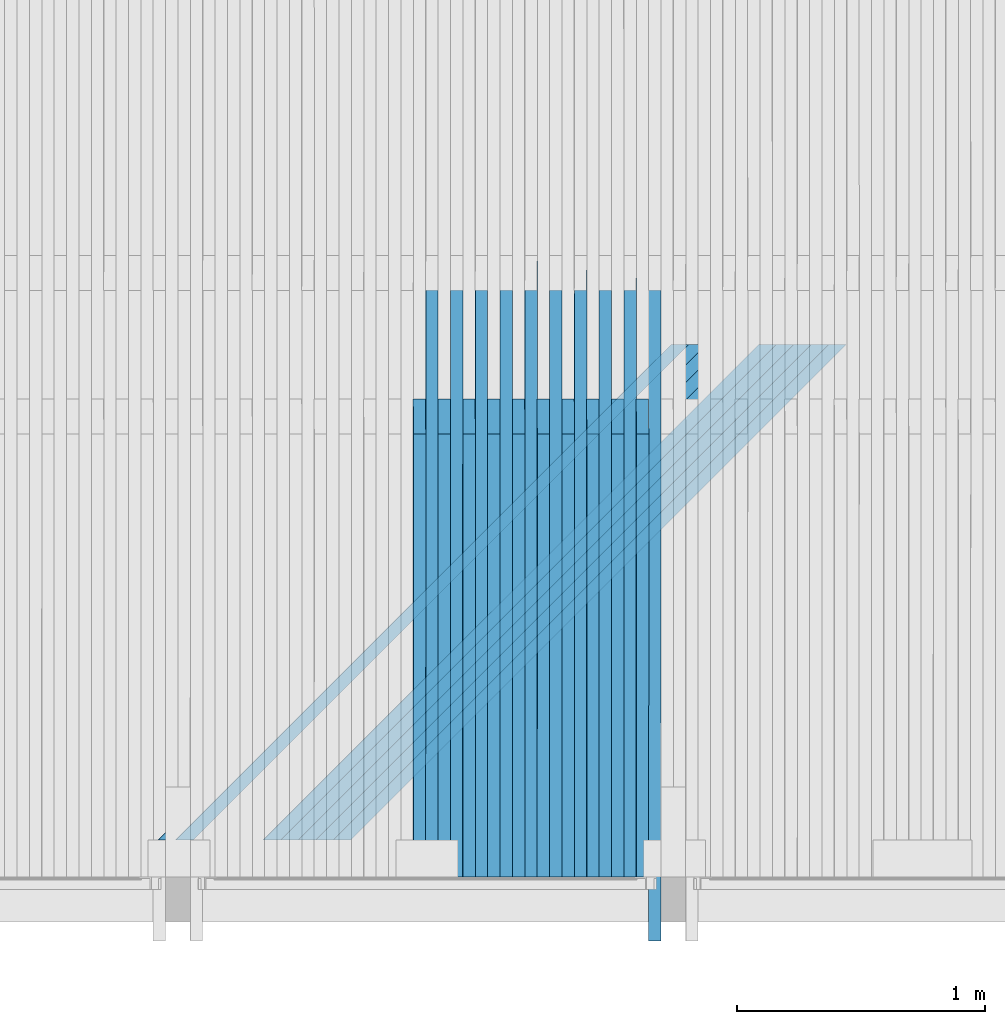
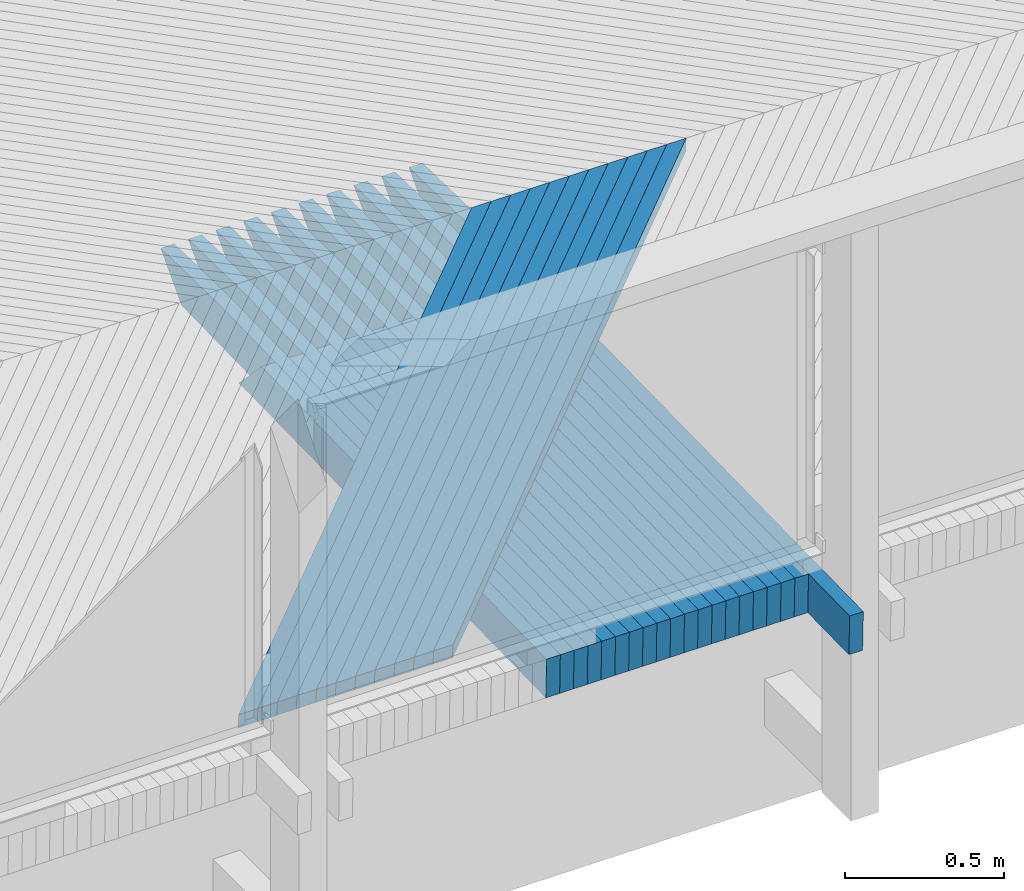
# One storey, part 33 of 65: 31 beams.
"""IFC2X3 building model written with IfcOpenShell, lengths in millimetres."""

from ifc_helpers import new_model, si_unit, frame, origin_with_axes, place, context, subcontext, project, spatial, faceted_brep, material, type_object, element, save


model = new_model("IFC2X3")

# Units and contexts
model_context = context("Model", 3, precision=1e-05, world=origin_with_axes())
body_context = subcontext(model_context, "Body", "Model", "MODEL_VIEW")
ifc_project = project(units=[si_unit("LENGTHUNIT", "METRE", prefix="MILLI"), si_unit("AREAUNIT", "SQUARE_METRE"), si_unit("VOLUMEUNIT", "CUBIC_METRE"), si_unit("MASSUNIT", "GRAM", prefix="KILO"), si_unit("TIMEUNIT", "SECOND"), si_unit("PLANEANGLEUNIT", "RADIAN"), si_unit("SOLIDANGLEUNIT", "STERADIAN"), si_unit("THERMODYNAMICTEMPERATUREUNIT", "DEGREE_CELSIUS"), si_unit("LUMINOUSINTENSITYUNIT", "LUMEN")], contexts=[model_context])

# Site, building, storey
site_placement = place(None, origin_with_axes())
site = spatial("IfcSite", under=ifc_project, at=site_placement, Name="Undefined", CompositionType="ELEMENT")
building_placement = place(site_placement, origin_with_axes())
building = spatial("IfcBuilding", under=site, at=building_placement, Name="Undefined", CompositionType="ELEMENT")
storey_placement = place(building_placement, origin_with_axes())
storey = spatial("IfcBuildingStorey", under=building, at=storey_placement, Name="Undefined", CompositionType="ELEMENT", Elevation=0.0)

# Beams
ifc_material = material(Name="TIMBER/Timber_Undefined")
beam_type_1 = type_object("IfcBeamType", Name="50*50", PredefinedType="NOTDEFINED")
for number, where, z_axis, x_axis, name in (
    (1, (12662.1109142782, 22364.5001003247, 3218.07252996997), (0.706993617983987, -0.706981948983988, -0.0183452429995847), (-0.707194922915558, -0.706948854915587, -0.00993264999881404), "BEAM"),
    (2, (12591.3887689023, 22364.5001003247, 3218.61599105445), (0.706995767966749, -0.706981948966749, -0.0182621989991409), (-0.707193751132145, -0.706948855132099, -0.0100157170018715), "BEAM"),
    (3, (12520.666560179, 22364.5001003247, 3219.15114506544), (0.706997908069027, -0.706981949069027, -0.0181791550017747), (-0.707192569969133, -0.706948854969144, -0.0100987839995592), "BEAM"),
    (4, (12449.944289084, 22364.5001003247, 3219.67799199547), (0.707000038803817, -0.706981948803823, -0.0180961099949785), (-0.707191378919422, -0.706948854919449, -0.0101818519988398), "BEAM"),
    (5, (12379.2219565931, 22364.5001003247, 3220.19653183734), (0.70700215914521, -0.706981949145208, -0.0180130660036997), (-0.707190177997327, -0.706948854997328, -0.0102649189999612), "BEAM"),
    (6, (12308.499563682, 22364.5001003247, 3220.70676458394), (0.707004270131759, -0.706981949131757, -0.0179300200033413), (-0.707188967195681, -0.706948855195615, -0.0103479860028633), "BEAM"),
    (7, (12237.7771113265, 22364.5001003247, 3221.20869022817), (0.707006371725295, -0.706981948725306, -0.0178469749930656), (-0.707187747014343, -0.706948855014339, -0.0104310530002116), "BEAM"),
    (8, (12167.0546005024, 22364.5001003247, 3221.70230876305), (0.707008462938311, -0.706981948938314, -0.0177639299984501), (-0.70718651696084, -0.706948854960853, -0.0105141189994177), "BEAM"),
    (9, (12096.3320321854, 22364.5001003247, 3222.18762018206), (0.707010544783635, -0.706981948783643, -0.017680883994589), (-0.707185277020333, -0.706948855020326, -0.0105971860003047), "BEAM"),
    (10, (12025.6094073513, 22364.5001003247, 3222.66462447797), (0.70701261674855, -0.706981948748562, -0.0175978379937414), (-0.707184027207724, -0.706948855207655, -0.0106802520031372), "BEAM"),
    (11, (11954.8867269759, 22364.5001003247, 3223.13332164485), (0.707014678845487, -0.706981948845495, -0.0175147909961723), (-0.707182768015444, -0.706948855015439, -0.0107633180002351), "BEAM"),
):
    element("IfcBeam", number, at=place(storey_placement, frame(where, z_axis=z_axis, x_axis=x_axis)), inside=storey, type_object=beam_type_1, material=ifc_material, Name=name, ObjectType="50*50", context=body_context, shape_type="Brep", body=[
        faceted_brep([(24.8942457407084, 25.0000000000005, -25.0000000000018), (-25.0086637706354, 24.9999999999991, 25.0), (2804.3406783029, 25.0, 25.0000000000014), (2854.34301907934, 24.9999999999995, -25.0), (-26.4222658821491, -25.0000000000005, 25.0), (2802.92643296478, -25.0, 25.0000000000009), (23.4806436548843, -24.9999999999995, -25.0000000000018), (2852.92877373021, -25.0000000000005, -24.9999999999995)], [[[0, 1, 2, 3]], [[1, 4, 5, 2]], [[4, 6, 7, 5]], [[6, 0, 3, 7]], [[5, 7, 3, 2]], [[6, 4, 1, 0]]]),
    ])
beam_type_2 = type_object("IfcBeamType", Name="150*50", PredefinedType="NOTDEFINED")
for number, where, z_axis, x_axis, name in (
    (12, (11875.3256007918, 20216.5046076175, 3080.67367306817), (0.0063570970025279, -0.0199960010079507, 0.999779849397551), (0.000127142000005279, 0.99980006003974, 0.0199955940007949), "BEAM"),
    (13, (11775.3075869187, 20216.5046076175, 3081.30926986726), (0.00619097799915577, -0.019996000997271, 0.999780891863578), (0.000123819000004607, 0.999800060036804, 0.019995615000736), "BEAM"),
):
    element("IfcBeam", number, at=place(storey_placement, frame(where, z_axis=z_axis, x_axis=x_axis)), inside=storey, type_object=beam_type_2, material=ifc_material, Name=name, ObjectType="150*50", context=body_context, shape_type="Brep", body=[
        faceted_brep([(-1.6778358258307e-07, -24.9999999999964, -74.9999999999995), (1.67790858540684e-07, -24.9999999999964, 75.0000000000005), (1.67790858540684e-07, 25.0000000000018, 74.9999999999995), (-1.6778358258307e-07, 25.0000000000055, -75.0), (1789.96936433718, -25.0000000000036, 74.9999999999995), (1789.96936408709, 24.9999999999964, 75.0), (1928.42646328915, 24.9999999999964, -75.0), (1928.42646353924, -25.0, -75.0000000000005)], [[[0, 1, 2, 3]], [[2, 1, 4, 5]], [[3, 2, 5, 6]], [[0, 3, 6, 7]], [[1, 0, 7, 4]], [[6, 5, 4, 7]]]),
    ])
beam_1_placement = place(storey_placement, frame((11825.3266087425, 20216.5046076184, 3080.99122584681), z_axis=(0.0063570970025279, -0.0199960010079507, 0.999779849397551), x_axis=(0.000127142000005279, 0.99980006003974, 0.0199955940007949)))
element("IfcBeam", 14, at=beam_1_placement, inside=storey, type_object=beam_type_2, material=ifc_material, Name="BEAM", ObjectType="150*50", context=body_context, shape_type="Brep", body=[
    faceted_brep([(-1.6778358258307e-07, -24.9999999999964, -74.9999999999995), (1.67790858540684e-07, -24.9999999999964, 75.0000000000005), (1.67790858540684e-07, 25.0000000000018, 74.9999999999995), (-1.6778358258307e-07, 25.0000000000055, -75.0), (2375.00494422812, 25.0000000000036, -75.0), (2375.00494447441, -24.9999999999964, -74.9999999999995), (2510.59248714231, -24.9999999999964, 60.5875430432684), (2150.42514405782, -24.9999999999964, 75.0000000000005), (2150.42515052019, 25.0000000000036, 74.9999999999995), (2510.59248715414, 25.0000000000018, 60.5875433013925)], [[[0, 1, 2, 3]], [[0, 3, 4, 5]], [[1, 0, 5, 6, 7]], [[2, 1, 7, 8]], [[4, 3, 2, 8, 9]], [[5, 4, 9, 6]], [[6, 9, 8, 7]]]),
])
beam_2_placement = place(storey_placement, frame((11675.2894688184, 20216.5046076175, 3081.92824813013), z_axis=(0.00602485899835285, -0.0199960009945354, 0.9997819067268), x_axis=(0.000120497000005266, 0.9998000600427, 0.019995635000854)))
element("IfcBeam", 15, at=beam_2_placement, inside=storey, type_object=beam_type_2, material=ifc_material, Name="BEAM", ObjectType="150*50", context=body_context, shape_type="Brep", body=[
    faceted_brep([(-1.6778358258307e-07, -24.9999999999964, -74.9999999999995), (1.67790858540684e-07, -24.9999999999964, 75.0000000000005), (1.67790858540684e-07, 25.0000000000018, 74.9999999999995), (-1.6778358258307e-07, 25.0000000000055, -75.0), (1789.96936433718, -25.0000000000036, 74.9999999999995), (1789.96936408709, 24.9999999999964, 75.0), (1928.42646328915, 24.9999999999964, -75.0), (1928.42646353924, -25.0, -75.0000000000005)], [[[0, 1, 2, 3]], [[2, 1, 4, 5]], [[3, 2, 5, 6]], [[0, 3, 6, 7]], [[1, 0, 7, 4]], [[6, 5, 4, 7]]]),
])
beam_3_placement = place(storey_placement, frame((11725.3085427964, 20216.5046076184, 3081.61851504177), z_axis=(0.00619097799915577, -0.019996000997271, 0.999780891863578), x_axis=(0.000123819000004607, 0.999800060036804, 0.019995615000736)))
element("IfcBeam", 16, at=beam_3_placement, inside=storey, type_object=beam_type_2, material=ifc_material, Name="BEAM", ObjectType="150*50", context=body_context, shape_type="Brep", body=[
    faceted_brep([(-1.6778358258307e-07, -24.9999999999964, -74.9999999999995), (1.67790858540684e-07, -24.9999999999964, 75.0000000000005), (1.67790858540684e-07, 25.0000000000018, 74.9999999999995), (-1.6778358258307e-07, 25.0000000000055, -75.0), (2375.00494422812, 25.0000000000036, -75.0), (2375.00494447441, -24.9999999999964, -74.9999999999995), (2510.59248714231, -24.9999999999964, 60.5875430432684), (2150.42514405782, -24.9999999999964, 75.0000000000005), (2150.42515052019, 25.0000000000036, 74.9999999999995), (2510.59248715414, 25.0000000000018, 60.5875433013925)], [[[0, 1, 2, 3]], [[0, 3, 4, 5]], [[1, 0, 5, 6, 7]], [[2, 1, 7, 8]], [[4, 3, 2, 8, 9]], [[5, 4, 9, 6]], [[6, 9, 8, 7]]]),
])
beam_4_placement = place(storey_placement, frame((11575.2712492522, 20216.5046076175, 3082.53060783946), z_axis=(0.00585873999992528, -0.0199960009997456, 0.999782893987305), x_axis=(0.000117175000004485, 0.999800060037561, 0.0199956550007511)))
element("IfcBeam", 17, at=beam_4_placement, inside=storey, type_object=beam_type_2, material=ifc_material, Name="BEAM", ObjectType="150*50", context=body_context, shape_type="Brep", body=[
    faceted_brep([(-1.6778358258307e-07, -24.9999999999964, -74.9999999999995), (1.67790858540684e-07, -24.9999999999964, 75.0000000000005), (1.67790858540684e-07, 25.0000000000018, 74.9999999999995), (-1.6778358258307e-07, 25.0000000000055, -75.0), (1789.96936433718, -25.0000000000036, 74.9999999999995), (1789.96936408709, 24.9999999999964, 75.0), (1928.42646328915, 24.9999999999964, -75.0), (1928.42646353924, -25.0, -75.0000000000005)], [[[0, 1, 2, 3]], [[2, 1, 4, 5]], [[3, 2, 5, 6]], [[0, 3, 6, 7]], [[1, 0, 7, 4]], [[6, 5, 4, 7]]]),
])
beam_5_placement = place(storey_placement, frame((11625.2903740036, 20216.5046076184, 3082.22918569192), z_axis=(0.00602485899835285, -0.0199960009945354, 0.9997819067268), x_axis=(0.000120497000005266, 0.9998000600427, 0.019995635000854)))
element("IfcBeam", 18, at=beam_5_placement, inside=storey, type_object=beam_type_2, material=ifc_material, Name="BEAM", ObjectType="150*50", context=body_context, shape_type="Brep", body=[
    faceted_brep([(-1.6778358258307e-07, -24.9999999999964, -74.9999999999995), (1.67790858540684e-07, -24.9999999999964, 75.0000000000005), (1.67790858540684e-07, 25.0000000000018, 74.9999999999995), (-1.6778358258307e-07, 25.0000000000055, -75.0), (2375.00494422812, 25.0000000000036, -75.0), (2375.00494447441, -24.9999999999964, -74.9999999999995), (2510.59248714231, -24.9999999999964, 60.5875430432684), (2150.42514405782, -24.9999999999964, 75.0000000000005), (2150.42515052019, 25.0000000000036, 74.9999999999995), (2510.59248715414, 25.0000000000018, 60.5875433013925)], [[[0, 1, 2, 3]], [[0, 3, 4, 5]], [[1, 0, 5, 6, 7]], [[2, 1, 7, 8]], [[4, 3, 2, 8, 9]], [[5, 4, 9, 6]], [[6, 9, 8, 7]]]),
])
beam_6_placement = place(storey_placement, frame((11475.2529309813, 20216.5046076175, 3083.11634897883), z_axis=(0.00569262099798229, -0.0199960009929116, 0.999783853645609), x_axis=(0.000113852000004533, 0.999800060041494, 0.0199956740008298)))
element("IfcBeam", 19, at=beam_6_placement, inside=storey, type_object=beam_type_2, material=ifc_material, Name="BEAM", ObjectType="150*50", context=body_context, shape_type="Brep", body=[
    faceted_brep([(-1.6778358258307e-07, -24.9999999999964, -74.9999999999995), (1.67790858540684e-07, -24.9999999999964, 75.0000000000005), (1.67790858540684e-07, 25.0000000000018, 74.9999999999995), (-1.6778358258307e-07, 25.0000000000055, -75.0), (1789.96936433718, -25.0000000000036, 74.9999999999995), (1789.96936408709, 24.9999999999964, 75.0), (1928.42646328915, 24.9999999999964, -75.0), (1928.42646353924, -25.0, -75.0000000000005)], [[[0, 1, 2, 3]], [[2, 1, 4, 5]], [[3, 2, 5, 6]], [[0, 3, 6, 7]], [[1, 0, 7, 4]], [[6, 5, 4, 7]]]),
])
beam_7_placement = place(storey_placement, frame((11525.2721051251, 20216.5046076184, 3082.82323778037), z_axis=(0.00585873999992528, -0.0199960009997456, 0.999782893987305), x_axis=(0.000117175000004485, 0.999800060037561, 0.0199956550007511)))
element("IfcBeam", 20, at=beam_7_placement, inside=storey, type_object=beam_type_2, material=ifc_material, Name="BEAM", ObjectType="150*50", context=body_context, shape_type="Brep", body=[
    faceted_brep([(-1.6778358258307e-07, -24.9999999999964, -74.9999999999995), (1.67790858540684e-07, -24.9999999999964, 75.0000000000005), (1.67790858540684e-07, 25.0000000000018, 74.9999999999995), (-1.6778358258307e-07, 25.0000000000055, -75.0), (2375.00494422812, 25.0000000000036, -75.0), (2375.00494447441, -24.9999999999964, -74.9999999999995), (2510.59248714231, -24.9999999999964, 60.5875430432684), (2150.42514405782, -24.9999999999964, 75.0000000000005), (2150.42515052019, 25.0000000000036, 74.9999999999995), (2510.59248715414, 25.0000000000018, 60.5875433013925)], [[[0, 1, 2, 3]], [[0, 3, 4, 5]], [[1, 0, 5, 6, 7]], [[2, 1, 7, 8]], [[4, 3, 2, 8, 9]], [[5, 4, 9, 6]], [[6, 9, 8, 7]]]),
])
beam_8_placement = place(storey_placement, frame((11375.234516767, 20216.5046076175, 3083.68547153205), z_axis=(0.00552650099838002, -0.0199960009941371, 0.999784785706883), x_axis=(0.000110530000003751, 0.999800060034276, 0.0199956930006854)))
element("IfcBeam", 21, at=beam_8_placement, inside=storey, type_object=beam_type_2, material=ifc_material, Name="BEAM", ObjectType="150*50", context=body_context, shape_type="Brep", body=[
    faceted_brep([(-1.6778358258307e-07, -24.9999999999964, -74.9999999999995), (1.67790858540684e-07, -24.9999999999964, 75.0000000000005), (1.67790858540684e-07, 25.0000000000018, 74.9999999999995), (-1.6778358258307e-07, 25.0000000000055, -75.0), (1789.96936433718, -25.0000000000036, 74.9999999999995), (1789.96936408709, 24.9999999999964, 75.0), (1928.42646328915, 24.9999999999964, -75.0), (1928.42646353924, -25.0, -75.0000000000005)], [[[0, 1, 2, 3]], [[2, 1, 4, 5]], [[3, 2, 5, 6]], [[0, 3, 6, 7]], [[1, 0, 7, 4]], [[6, 5, 4, 7]]]),
])
beam_9_placement = place(storey_placement, frame((11425.2537389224, 20216.5046076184, 3083.4006712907), z_axis=(0.00569262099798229, -0.0199960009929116, 0.999783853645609), x_axis=(0.000113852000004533, 0.999800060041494, 0.0199956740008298)))
element("IfcBeam", 22, at=beam_9_placement, inside=storey, type_object=beam_type_2, material=ifc_material, Name="BEAM", ObjectType="150*50", context=body_context, shape_type="Brep", body=[
    faceted_brep([(-1.6778358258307e-07, -24.9999999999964, -74.9999999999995), (1.67790858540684e-07, -24.9999999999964, 75.0000000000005), (1.67790858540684e-07, 25.0000000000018, 74.9999999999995), (-1.6778358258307e-07, 25.0000000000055, -75.0), (2375.00494422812, 25.0000000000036, -75.0), (2375.00494447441, -24.9999999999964, -74.9999999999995), (2510.59248714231, -24.9999999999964, 60.5875430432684), (2150.42514405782, -24.9999999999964, 75.0000000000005), (2150.42515052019, 25.0000000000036, 74.9999999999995), (2510.59248715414, 25.0000000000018, 60.5875433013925)], [[[0, 1, 2, 3]], [[0, 3, 4, 5]], [[1, 0, 5, 6, 7]], [[2, 1, 7, 8]], [[4, 3, 2, 8, 9]], [[5, 4, 9, 6]], [[6, 9, 8, 7]]]),
])
beam_10_placement = place(storey_placement, frame((11275.2160093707, 20216.5046076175, 3084.23797548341), z_axis=(0.00536038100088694, -0.0199960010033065, 0.999785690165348), x_axis=(0.000107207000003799, 0.999800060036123, 0.0199957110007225)))
element("IfcBeam", 23, at=beam_10_placement, inside=storey, type_object=beam_type_2, material=ifc_material, Name="BEAM", ObjectType="150*50", context=body_context, shape_type="Brep", body=[
    faceted_brep([(-1.6778358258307e-07, -24.9999999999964, -74.9999999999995), (1.67790858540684e-07, -24.9999999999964, 75.0000000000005), (1.67790858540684e-07, 25.0000000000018, 74.9999999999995), (-1.6778358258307e-07, 25.0000000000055, -75.0), (1789.96936433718, -25.0000000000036, 74.9999999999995), (1789.96936408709, 24.9999999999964, 75.0), (1928.42646328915, 24.9999999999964, -75.0), (1928.42646353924, -25.0, -75.0000000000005)], [[[0, 1, 2, 3]], [[2, 1, 4, 5]], [[3, 2, 5, 6]], [[0, 3, 6, 7]], [[1, 0, 7, 4]], [[6, 5, 4, 7]]]),
])
beam_11_placement = place(storey_placement, frame((11325.2352781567, 20216.5046076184, 3083.96148620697), z_axis=(0.00552650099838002, -0.0199960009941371, 0.999784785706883), x_axis=(0.000110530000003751, 0.999800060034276, 0.0199956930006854)))
element("IfcBeam", 24, at=beam_11_placement, inside=storey, type_object=beam_type_2, material=ifc_material, Name="BEAM", ObjectType="150*50", context=body_context, shape_type="Brep", body=[
    faceted_brep([(-1.6778358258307e-07, -24.9999999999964, -74.9999999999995), (1.67790858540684e-07, -24.9999999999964, 75.0000000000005), (1.67790858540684e-07, 25.0000000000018, 74.9999999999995), (-1.6778358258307e-07, 25.0000000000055, -75.0), (2375.00494422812, 25.0000000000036, -75.0), (2375.00494447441, -24.9999999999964, -74.9999999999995), (2510.59248714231, -24.9999999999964, 60.5875430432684), (2150.42514405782, -24.9999999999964, 75.0000000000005), (2150.42515052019, 25.0000000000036, 74.9999999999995), (2510.59248715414, 25.0000000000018, 60.5875433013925)], [[[0, 1, 2, 3]], [[0, 3, 4, 5]], [[1, 0, 5, 6, 7]], [[2, 1, 7, 8]], [[4, 3, 2, 8, 9]], [[5, 4, 9, 6]], [[6, 9, 8, 7]]]),
])
beam_12_placement = place(storey_placement, frame((11175.1974115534, 20216.5046076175, 3084.77386081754), z_axis=(0.00519426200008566, -0.0199960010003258, 0.999786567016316), x_axis=(0.000103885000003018, 0.999800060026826, 0.0199957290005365)))
element("IfcBeam", 25, at=beam_12_placement, inside=storey, type_object=beam_type_2, material=ifc_material, Name="BEAM", ObjectType="150*50", context=body_context, shape_type="Brep", body=[
    faceted_brep([(-1.6778358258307e-07, -24.9999999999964, -74.9999999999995), (1.67790858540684e-07, -24.9999999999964, 75.0000000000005), (1.67790858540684e-07, 25.0000000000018, 74.9999999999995), (-1.6778358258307e-07, 25.0000000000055, -75.0), (1789.96936433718, -25.0000000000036, 74.9999999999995), (1789.96936408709, 24.9999999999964, 75.0), (1928.42646328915, 24.9999999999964, -75.0), (1928.42646353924, -25.0, -75.0000000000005)], [[[0, 1, 2, 3]], [[2, 1, 4, 5]], [[3, 2, 5, 6]], [[0, 3, 6, 7]], [[1, 0, 7, 4]], [[6, 5, 4, 7]]]),
])
beam_13_placement = place(storey_placement, frame((11225.2167255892, 20216.5046076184, 3084.50568251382), z_axis=(0.00536038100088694, -0.0199960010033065, 0.999785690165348), x_axis=(0.000107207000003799, 0.999800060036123, 0.0199957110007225)))
element("IfcBeam", 26, at=beam_13_placement, inside=storey, type_object=beam_type_2, material=ifc_material, Name="BEAM", ObjectType="150*50", context=body_context, shape_type="Brep", body=[
    faceted_brep([(-1.6778358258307e-07, -24.9999999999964, -74.9999999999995), (1.67790858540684e-07, -24.9999999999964, 75.0000000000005), (1.67790858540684e-07, 25.0000000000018, 74.9999999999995), (-1.6778358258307e-07, 25.0000000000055, -75.0), (2375.00494422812, 25.0000000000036, -75.0), (2375.00494447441, -24.9999999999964, -74.9999999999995), (2510.59248714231, -24.9999999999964, 60.5875430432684), (2150.42514405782, -24.9999999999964, 75.0000000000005), (2150.42515052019, 25.0000000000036, 74.9999999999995), (2510.59248715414, 25.0000000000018, 60.5875433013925)], [[[0, 1, 2, 3]], [[0, 3, 4, 5]], [[1, 0, 5, 6, 7]], [[2, 1, 7, 8]], [[4, 3, 2, 8, 9]], [[5, 4, 9, 6]], [[6, 9, 8, 7]]]),
])
beam_14_placement = place(storey_placement, frame((11075.1787260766, 20216.5046076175, 3085.29312751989), z_axis=(0.005028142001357, -0.0199960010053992, 0.999787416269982), x_axis=(0.000100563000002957, 0.999800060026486, 0.0199957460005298)))
element("IfcBeam", 27, at=beam_14_placement, inside=storey, type_object=beam_type_2, material=ifc_material, Name="BEAM", ObjectType="150*50", context=body_context, shape_type="Brep", body=[
    faceted_brep([(-1.6778358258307e-07, -24.9999999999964, -74.9999999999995), (1.67790858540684e-07, -24.9999999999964, 75.0000000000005), (1.67790858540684e-07, 25.0000000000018, 74.9999999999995), (-1.6778358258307e-07, 25.0000000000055, -75.0), (1789.96936433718, -25.0000000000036, 74.9999999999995), (1789.96936408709, 24.9999999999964, 75.0), (1928.42646328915, 24.9999999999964, -75.0), (1928.42646353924, -25.0, -75.0000000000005)], [[[0, 1, 2, 3]], [[2, 1, 4, 5]], [[3, 2, 5, 6]], [[0, 3, 6, 7]], [[1, 0, 7, 4]], [[6, 5, 4, 7]]]),
])
beam_15_placement = place(storey_placement, frame((11125.1980839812, 20216.5046076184, 3085.03326019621), z_axis=(0.00519426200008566, -0.0199960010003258, 0.999786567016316), x_axis=(0.000103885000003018, 0.999800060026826, 0.0199957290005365)))
element("IfcBeam", 28, at=beam_15_placement, inside=storey, type_object=beam_type_2, material=ifc_material, Name="BEAM", ObjectType="150*50", context=body_context, shape_type="Brep", body=[
    faceted_brep([(-1.6778358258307e-07, -24.9999999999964, -74.9999999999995), (1.67790858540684e-07, -24.9999999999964, 75.0000000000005), (1.67790858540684e-07, 25.0000000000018, 74.9999999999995), (-1.6778358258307e-07, 25.0000000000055, -75.0), (2375.00494422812, 25.0000000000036, -75.0), (2375.00494447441, -24.9999999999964, -74.9999999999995), (2510.59248714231, -24.9999999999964, 60.5875430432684), (2150.42514405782, -24.9999999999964, 75.0000000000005), (2150.42515052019, 25.0000000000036, 74.9999999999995), (2510.59248715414, 25.0000000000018, 60.5875433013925)], [[[0, 1, 2, 3]], [[0, 3, 4, 5]], [[1, 0, 5, 6, 7]], [[2, 1, 7, 8]], [[4, 3, 2, 8, 9]], [[5, 4, 9, 6]], [[6, 9, 8, 7]]]),
])
beam_16_placement = place(storey_placement, frame((10975.1599557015, 20216.5046076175, 3085.79577557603), z_axis=(0.00486202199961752, -0.0199960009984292, 0.999788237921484), x_axis=(9.72400000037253e-05, 0.999800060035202, 0.019995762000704)))
element("IfcBeam", 29, at=beam_16_placement, inside=storey, type_object=beam_type_2, material=ifc_material, Name="BEAM", ObjectType="150*50", context=body_context, shape_type="Brep", body=[
    faceted_brep([(-1.6778358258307e-07, -24.9999999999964, -74.9999999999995), (1.67790858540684e-07, -24.9999999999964, 75.0000000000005), (1.67790858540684e-07, 25.0000000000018, 74.9999999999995), (-1.6778358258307e-07, 25.0000000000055, -75.0), (1789.96936433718, -25.0000000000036, 74.9999999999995), (1789.96936408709, 24.9999999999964, 75.0), (1928.42646328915, 24.9999999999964, -75.0), (1928.42646353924, -25.0, -75.0000000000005)], [[[0, 1, 2, 3]], [[2, 1, 4, 5]], [[3, 2, 5, 6]], [[0, 3, 6, 7]], [[1, 0, 7, 4]], [[6, 5, 4, 7]]]),
])
beam_17_placement = place(storey_placement, frame((11025.179356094, 20216.5046076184, 3085.5442192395), z_axis=(0.005028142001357, -0.0199960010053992, 0.999787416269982), x_axis=(0.000100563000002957, 0.999800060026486, 0.0199957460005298)))
element("IfcBeam", 30, at=beam_17_placement, inside=storey, type_object=beam_type_2, material=ifc_material, Name="BEAM", ObjectType="150*50", context=body_context, shape_type="Brep", body=[
    faceted_brep([(-1.6778358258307e-07, -24.9999999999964, -74.9999999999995), (1.67790858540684e-07, -24.9999999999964, 75.0000000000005), (1.67790858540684e-07, 25.0000000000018, 74.9999999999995), (-1.6778358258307e-07, 25.0000000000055, -75.0), (2375.00494422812, 25.0000000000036, -75.0), (2375.00494447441, -24.9999999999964, -74.9999999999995), (2510.59248714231, -24.9999999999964, 60.5875430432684), (2150.42514405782, -24.9999999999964, 75.0000000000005), (2150.42515052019, 25.0000000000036, 74.9999999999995), (2510.59248715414, 25.0000000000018, 60.5875433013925)], [[[0, 1, 2, 3]], [[0, 3, 4, 5]], [[1, 0, 5, 6, 7]], [[2, 1, 7, 8]], [[4, 3, 2, 8, 9]], [[5, 4, 9, 6]], [[6, 9, 8, 7]]]),
])
beam_18_placement = place(storey_placement, frame((11924.8805372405, 19958.5561921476, 3075.18894989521), z_axis=(0.0065221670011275, -0.0199960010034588, 0.999778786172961), x_axis=(0.000130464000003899, 0.999800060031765, 0.0199955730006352)))
element("IfcBeam", 31, at=beam_18_placement, inside=storey, type_object=beam_type_2, material=ifc_material, Name="BEAM", ObjectType="150*50", context=body_context, shape_type="Brep", body=[
    faceted_brep([(-1.6778358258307e-07, -24.9999999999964, -74.9999999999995), (1.67790858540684e-07, -24.9999999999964, 75.0000000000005), (1.67790858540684e-07, 25.0000000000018, 74.9999999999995), (-1.6778358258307e-07, 25.0000000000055, -75.0), (2633.00494750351, 24.9999999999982, -74.9999999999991), (2633.00494763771, -25.0000000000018, -74.9999999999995), (2768.59248713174, -25.0000000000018, 60.5875397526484), (2408.42500011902, -25.0, 75.0), (2408.42500056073, 25.0, 75.0), (2768.59248710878, 24.9999999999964, 60.587539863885)], [[[0, 1, 2, 3]], [[0, 3, 4, 5]], [[1, 0, 5, 6, 7]], [[2, 1, 7, 8]], [[4, 3, 2, 8, 9]], [[5, 4, 9, 6]], [[8, 7, 6, 9]]]),
])

save(model, "model.ifc")
